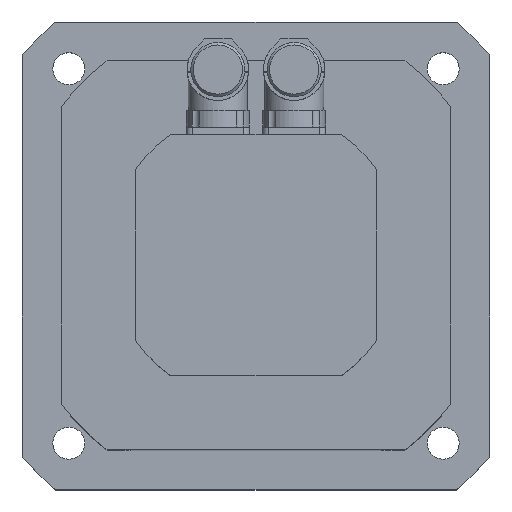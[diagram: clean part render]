
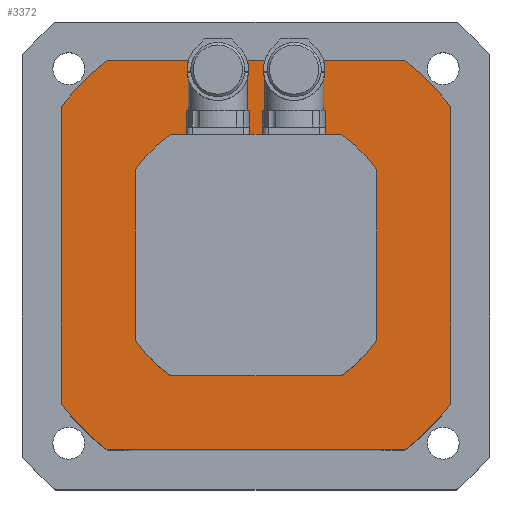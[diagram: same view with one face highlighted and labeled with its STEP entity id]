
A CAD part, top view. The second image highlights one B-rep face of the part: STEP entity #3372.
In plain terms, the highlighted planar face has unit normal (0, 0, 1).
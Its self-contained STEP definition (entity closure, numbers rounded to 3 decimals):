
#706=PLANE('',#3589);
#807=CIRCLE('',#3577,99.5);
#809=CIRCLE('',#3581,99.5);
#812=CIRCLE('',#3588,99.5);
#813=CIRCLE('',#3590,99.5);
#1000=VECTOR('',#4068,1.);
#1005=VECTOR('',#4080,1.);
#1009=VECTOR('',#4091,1.);
#1013=VECTOR('',#4096,1.);
#1227=LINE('',#5173,#1000);
#1232=LINE('',#5187,#1005);
#1236=LINE('',#5200,#1009);
#1240=LINE('',#5208,#1013);
#1468=VERTEX_POINT('',#5172);
#1469=VERTEX_POINT('',#5174);
#1471=VERTEX_POINT('',#5180);
#1473=VERTEX_POINT('',#5186);
#1475=VERTEX_POINT('',#5192);
#1478=VERTEX_POINT('',#5199);
#1479=VERTEX_POINT('',#5201);
#1481=VERTEX_POINT('',#5207);
#1815=EDGE_CURVE('',#1469,#1468,#1227,.T.);
#1819=EDGE_CURVE('',#1468,#1471,#807,.T.);
#1822=EDGE_CURVE('',#1471,#1473,#1232,.T.);
#1825=EDGE_CURVE('',#1473,#1475,#809,.T.);
#1828=EDGE_CURVE('',#1479,#1478,#1236,.T.);
#1832=EDGE_CURVE('',#1475,#1481,#1240,.T.);
#1835=EDGE_CURVE('',#1478,#1469,#812,.T.);
#1836=EDGE_CURVE('',#1481,#1479,#813,.T.);
#2402=ORIENTED_EDGE('',*,*,#1832,.T.);
#2403=ORIENTED_EDGE('',*,*,#1836,.T.);
#2404=ORIENTED_EDGE('',*,*,#1828,.T.);
#2405=ORIENTED_EDGE('',*,*,#1835,.T.);
#2406=ORIENTED_EDGE('',*,*,#1815,.T.);
#2407=ORIENTED_EDGE('',*,*,#1819,.T.);
#2408=ORIENTED_EDGE('',*,*,#1822,.T.);
#2409=ORIENTED_EDGE('',*,*,#1825,.T.);
#2954=EDGE_LOOP('',(#2402,#2403,#2404,#2405,#2406,#2407,#2408,#2409));
#3176=FACE_BOUND('',#2954,.T.);
#3372=ADVANCED_FACE('',(#3176),#706,.T.);
#3577=AXIS2_PLACEMENT_3D('',#5181,#4075,#4076);
#3581=AXIS2_PLACEMENT_3D('',#5193,#4086,#4087);
#3588=AXIS2_PLACEMENT_3D('',#5213,#4104,#4105);
#3589=AXIS2_PLACEMENT_3D('',#5214,#4106,$);
#3590=AXIS2_PLACEMENT_3D('',#5215,#4107,#4108);
#4068=DIRECTION('',(0.,-1.,0.));
#4075=DIRECTION('',(0.,0.,1.));
#4076=DIRECTION('',(99.5,0.,0.));
#4080=DIRECTION('',(1.,0.,0.));
#4086=DIRECTION('',(0.,0.,1.));
#4087=DIRECTION('',(99.5,0.,0.));
#4091=DIRECTION('',(-1.,0.,0.));
#4096=DIRECTION('',(0.,1.,0.));
#4104=DIRECTION('',(0.,0.,1.));
#4105=DIRECTION('',(99.5,0.,0.));
#4106=DIRECTION('',(0.,0.,1.));
#4107=DIRECTION('',(0.,0.,1.));
#4108=DIRECTION('',(99.5,0.,0.));
#5172=CARTESIAN_POINT('',(-79.,-60.492,0.));
#5173=CARTESIAN_POINT('',(-79.,60.492,0.));
#5174=CARTESIAN_POINT('',(-79.,60.492,0.));
#5180=CARTESIAN_POINT('',(-60.492,-79.,0.));
#5181=CARTESIAN_POINT('',(0.,0.,0.));
#5186=CARTESIAN_POINT('',(60.492,-79.,0.));
#5187=CARTESIAN_POINT('',(-60.492,-79.,0.));
#5192=CARTESIAN_POINT('',(79.,-60.492,0.));
#5193=CARTESIAN_POINT('',(0.,0.,0.));
#5199=CARTESIAN_POINT('',(-60.492,79.,0.));
#5200=CARTESIAN_POINT('',(60.492,79.,0.));
#5201=CARTESIAN_POINT('',(60.492,79.,0.));
#5207=CARTESIAN_POINT('',(79.,60.492,0.));
#5208=CARTESIAN_POINT('',(79.,-60.492,0.));
#5213=CARTESIAN_POINT('',(0.,0.,0.));
#5214=CARTESIAN_POINT('',(0.,0.,0.));
#5215=CARTESIAN_POINT('',(0.,0.,0.));
